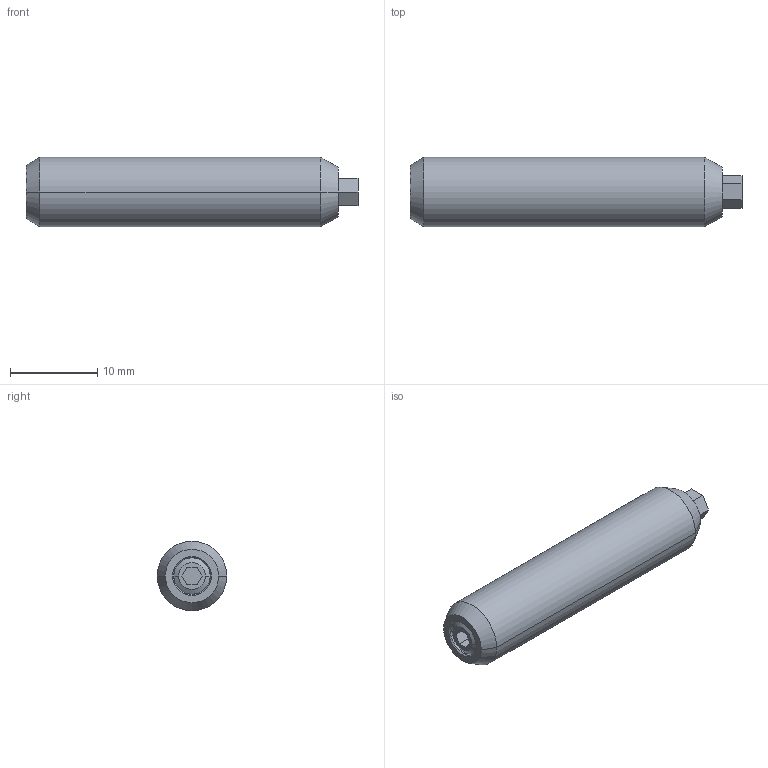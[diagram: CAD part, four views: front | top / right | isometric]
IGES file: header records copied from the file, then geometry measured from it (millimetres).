
Start section:  PTC IGES file: ht56n-3d.igs
Global section: file name: ht56n-3d.igs; native system: Pro/ENGINEER by Parametric Technology Corporation; preprocessor: 2002350; author: chant; organization: Unknown; date: 061107.093932; units: inch
Bounding box: 37.95 x 7.92 x 7.92 mm (x, y, z)
Surface area: 1551.9 mm2 (no closed solid volume)
Topology: 0 solids, 0 shells, 46 faces, 289 edges, 361 vertices
Faces by surface type: bspline 26, revolution 20
